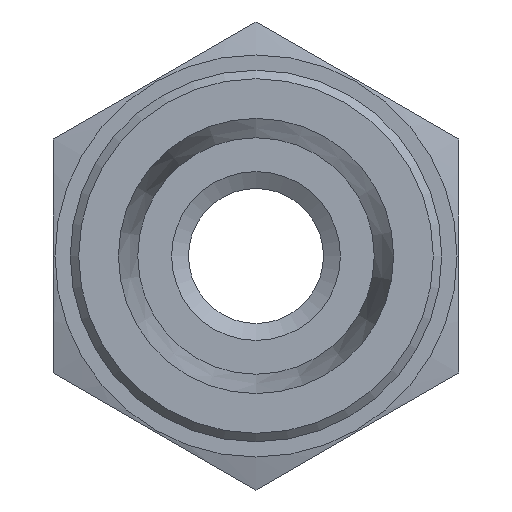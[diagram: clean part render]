
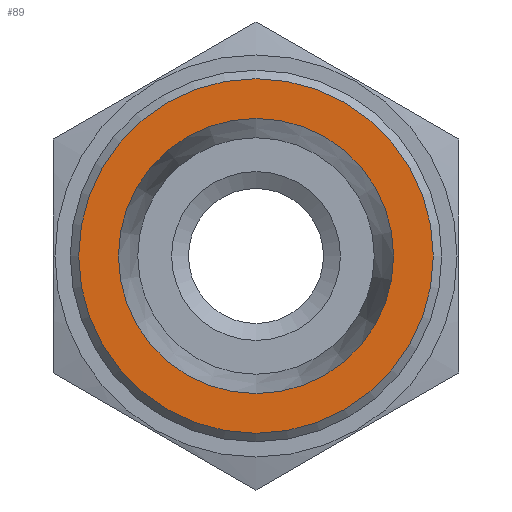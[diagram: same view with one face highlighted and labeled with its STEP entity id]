
A CAD part, left-side view. The second image highlights one B-rep face of the part: STEP entity #89.
In plain terms, the highlighted planar face has unit normal (-1, 0, 0).
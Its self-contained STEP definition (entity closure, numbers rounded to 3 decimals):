
#89 = ADVANCED_FACE( '', ( #202, #203 ), #204, .T. );
#202 = FACE_OUTER_BOUND( '', #335, .T. );
#203 = FACE_BOUND( '', #336, .T. );
#204 = PLANE( '', #337 );
#335 = EDGE_LOOP( '', ( #510 ) );
#336 = EDGE_LOOP( '', ( #511 ) );
#337 = AXIS2_PLACEMENT_3D( '', #512, #513, #514 );
#510 = ORIENTED_EDGE( '', *, *, #670, .T. );
#511 = ORIENTED_EDGE( '', *, *, #671, .F. );
#512 = CARTESIAN_POINT( '', ( -18., -12., -6.928 ) );
#513 = DIRECTION( '', ( -1., 0., 0. ) );
#514 = DIRECTION( '', ( 0., -1., 0. ) );
#670 = EDGE_CURVE( '', #777, #777, #778, .T. );
#671 = EDGE_CURVE( '', #779, #779, #780, .T. );
#777 = VERTEX_POINT( '', #996 );
#778 = CIRCLE( '', #997, 10.5 );
#779 = VERTEX_POINT( '', #998 );
#780 = CIRCLE( '', #999, 8.15 );
#996 = CARTESIAN_POINT( '', ( -18., -10.5, 0. ) );
#997 = AXIS2_PLACEMENT_3D( '', #1090, #1091, #1092 );
#998 = CARTESIAN_POINT( '', ( -18., 0., 8.15 ) );
#999 = AXIS2_PLACEMENT_3D( '', #1093, #1094, #1095 );
#1090 = CARTESIAN_POINT( '', ( -18., 0., 0. ) );
#1091 = DIRECTION( '', ( -1., 0., 0. ) );
#1092 = DIRECTION( '', ( 0., -1., 0. ) );
#1093 = CARTESIAN_POINT( '', ( -18., 0., 0. ) );
#1094 = DIRECTION( '', ( -1., 0., 0. ) );
#1095 = DIRECTION( '', ( 0., 0., 1. ) );
